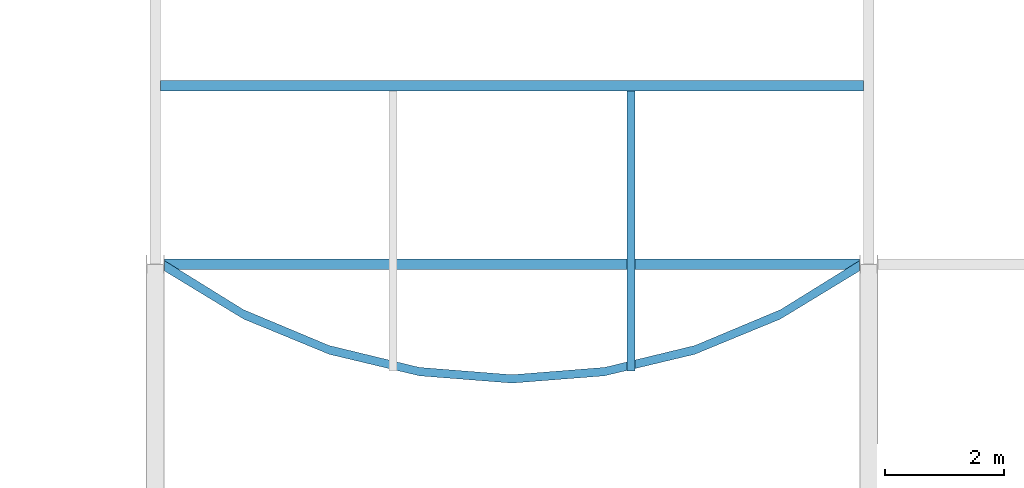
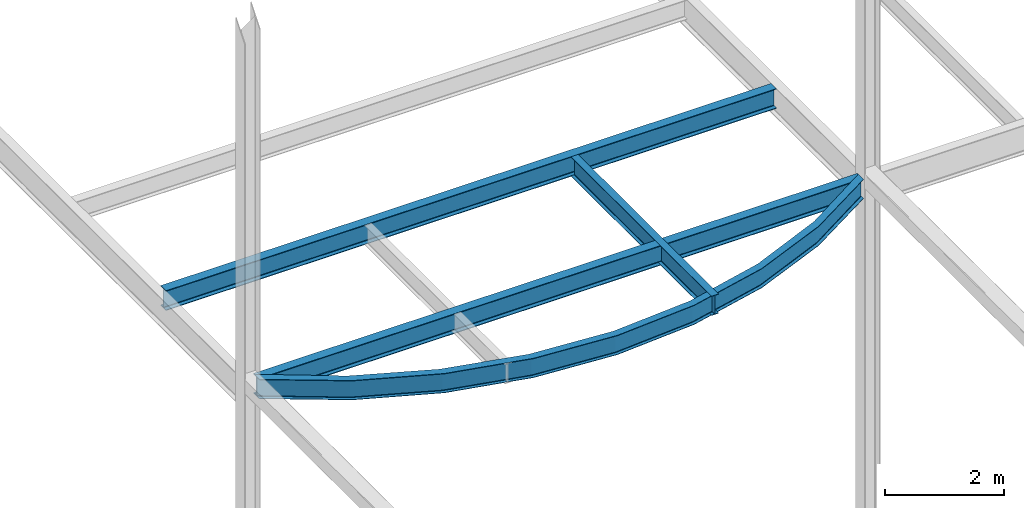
# One storey, part 9 of 21: 4 beams.
"""IFC2X3 building model written with IfcOpenShell, lengths in millimetres."""

from ifc_helpers import new_model, si_unit, origin, place, context, project, spatial, faceted_brep, material, element, save


model = new_model("IFC2X3")

# Units and contexts
context_of_model = context(None, 3, precision=1e-05, world=origin())
ifc_project = project(units=[si_unit("LENGTHUNIT", "METRE", prefix="MILLI")], contexts=[context_of_model])

# Building, storey
building = spatial("IfcBuilding", under=ifc_project, Name="Building", CompositionType="ELEMENT")
storey = spatial("IfcBuildingStorey", under=building, Name="FL6-FRM", CompositionType="ELEMENT")

# Beams
ifc_material_1 = material(Name="A992")
beam_1_placement = place(None, origin())
element("IfcBeam", 1, at=beam_1_placement, inside=storey, material=ifc_material_1, Name="B1184", context=context_of_model, shape_type="Brep", body=[
    faceted_brep([(89.5, 11911.0, 21966.0), (89.5, 12089.0, 21966.0), (11910.5, 12089.0, 21966.0), (11910.5, 11911.0, 21966.0), (89.5, 12089.0, 21978.8), (11910.5, 12089.0, 21978.8), (89.5, 12014.0, 21978.8), (11910.5, 12014.0, 21978.8), (89.5, 12011.4, 21979.1), (11910.5, 12011.4, 21979.1), (89.5, 12008.9, 21980.2), (11910.5, 12008.9, 21980.2), (89.5, 12006.8, 21981.8), (11910.5, 12006.8, 21981.8), (89.5, 12005.2, 21983.9), (11910.5, 12005.2, 21983.9), (89.5, 12004.2, 21986.4), (11910.5, 12004.2, 21986.4), (89.5, 12003.8, 21989.0), (11910.5, 12003.8, 21989.0), (89.5, 12003.8, 22350.0), (11910.5, 12003.8, 22350.0), (89.5, 12004.2, 22352.6), (11910.5, 12004.2, 22352.6), (89.5, 12005.2, 22355.1), (11910.5, 12005.2, 22355.1), (89.5, 12006.8, 22357.2), (11910.5, 12006.8, 22357.2), (89.5, 12008.9, 22358.8), (11910.5, 12008.9, 22358.8), (89.5, 12011.4, 22359.9), (11910.5, 12011.4, 22359.9), (89.5, 12014.0, 22360.2), (11910.5, 12014.0, 22360.2), (89.5, 12089.0, 22360.2), (11910.5, 12089.0, 22360.2), (89.5, 12089.0, 22373.0), (11910.5, 12089.0, 22373.0), (89.5, 11911.0, 22373.0), (11910.5, 11911.0, 22373.0), (89.5, 11911.0, 22360.2), (11910.5, 11911.0, 22360.2), (89.5, 11986.0, 22360.2), (11910.5, 11986.0, 22360.2), (89.5, 11988.6, 22359.9), (11910.5, 11988.6, 22359.9), (89.5, 11991.1, 22358.8), (11910.5, 11991.1, 22358.8), (89.5, 11993.2, 22357.2), (11910.5, 11993.2, 22357.2), (89.5, 11994.8, 22355.1), (11910.5, 11994.8, 22355.1), (89.5, 11995.8, 22352.6), (11910.5, 11995.8, 22352.6), (89.5, 11996.2, 22350.0), (11910.5, 11996.2, 22350.0), (89.5, 11996.2, 21989.0), (11910.5, 11996.2, 21989.0), (89.5, 11995.8, 21986.4), (11910.5, 11995.8, 21986.4), (89.5, 11994.8, 21983.9), (11910.5, 11994.8, 21983.9), (89.5, 11993.2, 21981.8), (11910.5, 11993.2, 21981.8), (89.5, 11991.1, 21980.2), (11910.5, 11991.1, 21980.2), (89.5, 11988.6, 21979.1), (11910.5, 11988.6, 21979.1), (89.5, 11986.0, 21978.8), (11910.5, 11986.0, 21978.8), (89.5, 11911.0, 21978.8), (11910.5, 11911.0, 21978.8)], [[[0, 1, 2, 3]], [[1, 4, 5, 2]], [[4, 6, 7, 5]], [[6, 8, 9, 7]], [[8, 10, 11, 9]], [[10, 12, 13, 11]], [[12, 14, 15, 13]], [[14, 16, 17, 15]], [[16, 18, 19, 17]], [[18, 20, 21, 19]], [[20, 22, 23, 21]], [[22, 24, 25, 23]], [[24, 26, 27, 25]], [[26, 28, 29, 27]], [[28, 30, 31, 29]], [[30, 32, 33, 31]], [[32, 34, 35, 33]], [[34, 36, 37, 35]], [[36, 38, 39, 37]], [[38, 40, 41, 39]], [[40, 42, 43, 41]], [[42, 44, 45, 43]], [[44, 46, 47, 45]], [[46, 48, 49, 47]], [[48, 50, 51, 49]], [[50, 52, 53, 51]], [[52, 54, 55, 53]], [[54, 56, 57, 55]], [[56, 58, 59, 57]], [[58, 60, 61, 59]], [[60, 62, 63, 61]], [[62, 64, 65, 63]], [[64, 66, 67, 65]], [[66, 68, 69, 67]], [[68, 70, 71, 69]], [[70, 0, 3, 71]], [[0, 70, 68, 66, 64, 62, 60, 58, 56, 54, 52, 50, 48, 46, 44, 42, 40, 38, 36, 34, 32, 30, 28, 26, 24, 22, 20, 18, 16, 14, 12, 10, 8, 6, 4, 1]], [[3, 2, 5, 7, 9, 11, 13, 15, 17, 19, 21, 23, 25, 27, 29, 31, 33, 35, 37, 39, 41, 43, 45, 47, 49, 51, 53, 55, 57, 59, 61, 63, 65, 67, 69, 71]]]),
])
ifc_material_2 = material(Name="A992")
beam_2_placement = place(None, origin())
element("IfcBeam", 2, at=beam_2_placement, inside=storey, material=ifc_material_2, Name="B1235", context=context_of_model, shape_type="Brep", body=[
    faceted_brep([(154.0, 8911.0, 21966.0), (154.0, 9089.0, 21966.0), (11846.0, 9089.0, 21966.0), (11846.0, 8911.0, 21966.0), (154.0, 9089.0, 21978.8), (11846.0, 9089.0, 21978.8), (154.0, 9014.05, 21978.8), (11846.0, 9014.05, 21978.8), (154.0, 9011.41, 21979.1), (11846.0, 9011.41, 21979.1), (154.0, 9008.95, 21980.2), (11846.0, 9008.95, 21980.2), (154.0, 9006.84, 21981.8), (11846.0, 9006.84, 21981.8), (154.0, 9005.22, 21983.9), (11846.0, 9005.22, 21983.9), (154.0, 9004.2, 21986.4), (11846.0, 9004.2, 21986.4), (154.0, 9003.85, 21989.0), (11846.0, 9003.85, 21989.0), (154.0, 9003.85, 22350.0), (11846.0, 9003.85, 22350.0), (154.0, 9004.2, 22352.6), (11846.0, 9004.2, 22352.6), (154.0, 9005.22, 22355.1), (11846.0, 9005.22, 22355.1), (154.0, 9006.84, 22357.2), (11846.0, 9006.84, 22357.2), (154.0, 9008.95, 22358.8), (11846.0, 9008.95, 22358.8), (154.0, 9011.41, 22359.9), (11846.0, 9011.41, 22359.9), (154.0, 9014.05, 22360.2), (11846.0, 9014.05, 22360.2), (154.0, 9089.0, 22360.2), (11846.0, 9089.0, 22360.2), (154.0, 9089.0, 22373.0), (11846.0, 9089.0, 22373.0), (154.0, 8911.0, 22373.0), (11846.0, 8911.0, 22373.0), (154.0, 8911.0, 22360.2), (11846.0, 8911.0, 22360.2), (154.0, 8985.95, 22360.2), (11846.0, 8985.95, 22360.2), (154.0, 8988.59, 22359.9), (11846.0, 8988.59, 22359.9), (154.0, 8991.05, 22358.8), (11846.0, 8991.05, 22358.8), (154.0, 8993.16, 22357.2), (11846.0, 8993.16, 22357.2), (154.0, 8994.78, 22355.1), (11846.0, 8994.78, 22355.1), (154.0, 8995.8, 22352.6), (11846.0, 8995.8, 22352.6), (154.0, 8996.15, 22350.0), (11846.0, 8996.15, 22350.0), (154.0, 8996.15, 21989.0), (11846.0, 8996.15, 21989.0), (154.0, 8995.8, 21986.4), (11846.0, 8995.8, 21986.4), (154.0, 8994.78, 21983.9), (11846.0, 8994.78, 21983.9), (154.0, 8993.16, 21981.8), (11846.0, 8993.16, 21981.8), (154.0, 8991.05, 21980.2), (11846.0, 8991.05, 21980.2), (154.0, 8988.59, 21979.1), (11846.0, 8988.59, 21979.1), (154.0, 8985.95, 21978.8), (11846.0, 8985.95, 21978.8), (154.0, 8911.0, 21978.8), (11846.0, 8911.0, 21978.8)], [[[0, 1, 2, 3]], [[1, 4, 5, 2]], [[4, 6, 7, 5]], [[6, 8, 9, 7]], [[8, 10, 11, 9]], [[10, 12, 13, 11]], [[12, 14, 15, 13]], [[14, 16, 17, 15]], [[16, 18, 19, 17]], [[18, 20, 21, 19]], [[20, 22, 23, 21]], [[22, 24, 25, 23]], [[24, 26, 27, 25]], [[26, 28, 29, 27]], [[28, 30, 31, 29]], [[30, 32, 33, 31]], [[32, 34, 35, 33]], [[34, 36, 37, 35]], [[36, 38, 39, 37]], [[38, 40, 41, 39]], [[40, 42, 43, 41]], [[42, 44, 45, 43]], [[44, 46, 47, 45]], [[46, 48, 49, 47]], [[48, 50, 51, 49]], [[50, 52, 53, 51]], [[52, 54, 55, 53]], [[54, 56, 57, 55]], [[56, 58, 59, 57]], [[58, 60, 61, 59]], [[60, 62, 63, 61]], [[62, 64, 65, 63]], [[64, 66, 67, 65]], [[66, 68, 69, 67]], [[68, 70, 71, 69]], [[70, 0, 3, 71]], [[0, 70, 68, 66, 64, 62, 60, 58, 56, 54, 52, 50, 48, 46, 44, 42, 40, 38, 36, 34, 32, 30, 28, 26, 24, 22, 20, 18, 16, 14, 12, 10, 8, 6, 4, 1]], [[3, 2, 5, 7, 9, 11, 13, 15, 17, 19, 21, 23, 25, 27, 29, 31, 33, 35, 37, 39, 41, 43, 45, 47, 49, 51, 53, 55, 57, 59, 61, 63, 65, 67, 69, 71]]]),
])
ifc_material_3 = material(Name="A992")
beam_3_placement = place(None, origin())
element("IfcBeam", 3, at=beam_3_placement, inside=storey, material=ifc_material_3, Name="B1246", context=context_of_model, shape_type="Brep", body=[
    faceted_brep([(154.0, 8886.78, 21974.0), (154.0, 9059.98, 21974.0), (1482.05, 8236.25, 21974.0), (1486.39, 8076.59, 21974.0), (2923.51, 7632.66, 21974.0), (2928.53, 7483.38, 21974.0), (4442.21, 7264.33, 21974.0), (4445.36, 7121.58, 21974.0), (6000.0, 7140.52, 21974.0), (6000.0, 7000.0, 21974.0), (7557.8, 7264.33, 21974.0), (7554.64, 7121.58, 21974.0), (9076.49, 7632.66, 21974.0), (9071.47, 7483.38, 21974.0), (10518.0, 8236.26, 21974.0), (10513.6, 8076.59, 21974.0), (11846.0, 9059.99, 21974.0), (11846.0, 8886.78, 21974.0), (154.0, 9059.98, 21982.8), (1482.05, 8236.25, 21982.8), (2923.51, 7632.66, 21982.8), (4442.21, 7264.33, 21982.8), (6000.0, 7140.52, 21982.8), (7557.8, 7264.33, 21982.8), (9076.49, 7632.66, 21982.8), (10518.0, 8236.26, 21982.8), (11846.0, 9059.99, 21982.8), (154.0, 8989.8, 21982.8), (1483.81, 8171.56, 21982.8), (2925.55, 7572.17, 21982.8), (4443.49, 7206.49, 21982.8), (6000.0, 7083.58, 21982.8), (7556.52, 7206.49, 21982.8), (9074.45, 7572.17, 21982.8), (10516.2, 8171.56, 21982.8), (11846.0, 8989.81, 21982.8), (154.0, 8987.85, 21982.9), (1483.86, 8169.75, 21982.9), (2925.6, 7570.48, 21982.9), (4443.52, 7204.88, 21982.9), (6000.0, 7082.0, 21982.9), (7556.48, 7204.88, 21982.9), (9074.4, 7570.49, 21982.9), (10516.1, 8169.76, 21982.9), (11846.0, 8987.85, 21982.9), (154.0, 8985.92, 21983.3), (1483.91, 8167.98, 21983.3), (2925.66, 7568.83, 21983.3), (4443.56, 7203.3, 21983.3), (6000.0, 7080.44, 21983.3), (7556.44, 7203.3, 21983.3), (9074.34, 7568.83, 21983.3), (10516.1, 8167.98, 21983.3), (11846.0, 8985.92, 21983.3), (154.0, 8984.1, 21983.9), (1483.95, 8166.31, 21983.9), (2925.71, 7567.26, 21983.9), (4443.59, 7201.8, 21983.9), (6000.0, 7078.97, 21983.9), (7556.41, 7201.8, 21983.9), (9074.29, 7567.26, 21983.9), (10516.0, 8166.31, 21983.9), (11846.0, 8984.11, 21983.9), (154.0, 8982.42, 21984.7), (1483.99, 8164.75, 21984.7), (2925.76, 7565.81, 21984.7), (4443.62, 7200.41, 21984.7), (6000.0, 7077.6, 21984.7), (7556.38, 7200.41, 21984.7), (9074.24, 7565.81, 21984.7), (10516.0, 8164.76, 21984.7), (11846.0, 8982.42, 21984.7), (154.0, 8980.89, 21985.8), (1484.03, 8163.34, 21985.8), (2925.81, 7564.49, 21985.8), (4443.65, 7199.15, 21985.8), (6000.0, 7076.36, 21985.8), (7556.35, 7199.15, 21985.8), (9074.19, 7564.49, 21985.8), (10516.0, 8163.34, 21985.8), (11846.0, 8980.89, 21985.8), (154.0, 8979.63, 21987.0), (1484.06, 8162.18, 21987.0), (2925.84, 7563.41, 21987.0), (4443.67, 7198.11, 21987.0), (6000.0, 7075.34, 21987.0), (7556.33, 7198.11, 21987.0), (9074.16, 7563.41, 21987.0), (10515.9, 8162.18, 21987.0), (11846.0, 8979.63, 21987.0), (154.0, 8978.57, 21988.3), (1484.09, 8161.21, 21988.3), (2925.87, 7562.5, 21988.3), (4443.69, 7197.24, 21988.3), (6000.0, 7074.48, 21988.3), (7556.31, 7197.24, 21988.3), (9074.13, 7562.5, 21988.3), (10515.9, 8161.21, 21988.3), (11846.0, 8978.57, 21988.3), (154.0, 8977.82, 21989.8), (1484.11, 8160.52, 21989.8), (2925.9, 7561.85, 21989.8), (4443.7, 7196.62, 21989.8), (6000.0, 7073.87, 21989.8), (7556.3, 7196.62, 21989.8), (9074.11, 7561.85, 21989.8), (10515.9, 8160.52, 21989.8), (11846.0, 8977.83, 21989.8), (154.0, 8977.37, 21991.4), (1484.12, 8160.1, 21991.4), (2925.91, 7561.46, 21991.4), (4443.71, 7196.25, 21991.4), (6000.0, 7073.5, 21991.4), (7556.29, 7196.25, 21991.4), (9074.09, 7561.46, 21991.4), (10515.9, 8160.1, 21991.4), (11846.0, 8977.37, 21991.4), (154.0, 8977.19, 21993.0), (1484.12, 8159.93, 21993.0), (2925.91, 7561.3, 21993.0), (4443.72, 7196.09, 21993.0), (6000.0, 7073.35, 21993.0), (7556.29, 7196.1, 21993.0), (9074.09, 7561.3, 21993.0), (10515.9, 8159.93, 21993.0), (11846.0, 8977.19, 21993.0), (154.0, 8977.18, 22354.0), (1484.12, 8159.92, 22354.0), (2925.91, 7561.29, 22354.0), (4443.72, 7196.09, 22354.0), (6000.0, 7073.34, 22354.0), (7556.29, 7196.09, 22354.0), (9074.09, 7561.29, 22354.0), (10515.9, 8159.92, 22354.0), (11846.0, 8977.18, 22354.0), (154.0, 8977.36, 22355.6), (1484.12, 8160.09, 22355.6), (2925.91, 7561.45, 22355.6), (4443.71, 7196.24, 22355.6), (6000.0, 7073.49, 22355.6), (7556.29, 7196.24, 22355.6), (9074.09, 7561.45, 22355.6), (10515.9, 8160.09, 22355.6), (11846.0, 8977.37, 22355.6), (154.0, 8977.82, 22357.2), (1484.11, 8160.52, 22357.2), (2925.9, 7561.85, 22357.2), (4443.7, 7196.62, 22357.2), (6000.0, 7073.87, 22357.2), (7556.3, 7196.62, 22357.2), (9074.11, 7561.85, 22357.2), (10515.9, 8160.52, 22357.2), (11846.0, 8977.82, 22357.2), (154.0, 8978.57, 22358.7), (1484.09, 8161.21, 22358.7), (2925.87, 7562.5, 22358.7), (4443.69, 7197.24, 22358.7), (6000.0, 7074.48, 22358.7), (7556.31, 7197.24, 22358.7), (9074.13, 7562.5, 22358.7), (10515.9, 8161.21, 22358.7), (11846.0, 8978.58, 22358.7), (154.0, 8979.63, 22360.0), (1484.06, 8162.18, 22360.0), (2925.84, 7563.41, 22360.0), (4443.67, 7198.11, 22360.0), (6000.0, 7075.34, 22360.0), (7556.33, 7198.11, 22360.0), (9074.16, 7563.41, 22360.0), (10515.9, 8162.18, 22360.0), (11846.0, 8979.63, 22360.0), (154.0, 8980.89, 22361.2), (1484.03, 8163.34, 22361.2), (2925.81, 7564.49, 22361.2), (4443.65, 7199.15, 22361.2), (6000.0, 7076.36, 22361.2), (7556.35, 7199.15, 22361.2), (9074.19, 7564.49, 22361.2), (10516.0, 8163.34, 22361.2), (11846.0, 8980.89, 22361.2), (154.0, 8982.42, 22362.3), (1483.99, 8164.75, 22362.3), (2925.76, 7565.81, 22362.3), (4443.62, 7200.41, 22362.3), (6000.0, 7077.6, 22362.3), (7556.38, 7200.41, 22362.3), (9074.24, 7565.81, 22362.3), (10516.0, 8164.76, 22362.3), (11846.0, 8982.42, 22362.3), (154.0, 8984.1, 22363.1), (1483.95, 8166.31, 22363.1), (2925.71, 7567.26, 22363.1), (4443.59, 7201.8, 22363.1), (6000.0, 7078.97, 22363.1), (7556.41, 7201.8, 22363.1), (9074.29, 7567.26, 22363.1), (10516.0, 8166.31, 22363.1), (11846.0, 8984.11, 22363.1), (154.0, 8985.92, 22363.7), (1483.91, 8167.98, 22363.7), (2925.66, 7568.83, 22363.7), (4443.56, 7203.3, 22363.7), (6000.0, 7080.44, 22363.7), (7556.44, 7203.3, 22363.7), (9074.34, 7568.83, 22363.7), (10516.1, 8167.98, 22363.7), (11846.0, 8985.92, 22363.7), (154.0, 8987.85, 22364.1), (1483.86, 8169.76, 22364.1), (2925.6, 7570.49, 22364.1), (4443.52, 7204.88, 22364.1), (6000.0, 7082.0, 22364.1), (7556.48, 7204.88, 22364.1), (9074.4, 7570.49, 22364.1), (10516.1, 8169.76, 22364.1), (11846.0, 8987.85, 22364.1), (154.0, 8989.81, 22364.2), (1483.81, 8171.57, 22364.2), (2925.55, 7572.18, 22364.2), (4443.49, 7206.5, 22364.2), (6000.0, 7083.59, 22364.2), (7556.52, 7206.5, 22364.2), (9074.45, 7572.18, 22364.2), (10516.2, 8171.57, 22364.2), (11846.0, 8989.81, 22364.2), (154.0, 9059.98, 22364.2), (1482.05, 8236.25, 22364.2), (2923.51, 7632.66, 22364.2), (4442.21, 7264.33, 22364.2), (6000.0, 7140.52, 22364.2), (7557.8, 7264.33, 22364.2), (9076.49, 7632.66, 22364.2), (10518.0, 8236.26, 22364.2), (11846.0, 9059.99, 22364.2), (154.0, 9059.98, 22373.0), (1482.05, 8236.25, 22373.0), (2923.51, 7632.66, 22373.0), (4442.21, 7264.33, 22373.0), (6000.0, 7140.52, 22373.0), (7557.8, 7264.33, 22373.0), (9076.49, 7632.66, 22373.0), (10518.0, 8236.26, 22373.0), (11846.0, 9059.99, 22373.0), (154.0, 8886.78, 22373.0), (1486.39, 8076.59, 22373.0), (2928.53, 7483.38, 22373.0), (4445.36, 7121.58, 22373.0), (6000.0, 7000.0, 22373.0), (7554.64, 7121.58, 22373.0), (9071.47, 7483.38, 22373.0), (10513.6, 8076.59, 22373.0), (11846.0, 8886.78, 22373.0), (154.0, 8886.78, 22364.2), (1486.39, 8076.59, 22364.2), (2928.53, 7483.38, 22364.2), (4445.36, 7121.58, 22364.2), (6000.0, 7000.0, 22364.2), (7554.64, 7121.58, 22364.2), (9071.47, 7483.38, 22364.2), (10513.6, 8076.59, 22364.2), (11846.0, 8886.78, 22364.2), (154.0, 8956.65, 22364.2), (1484.64, 8140.99, 22364.2), (2926.51, 7543.6, 22364.2), (4444.09, 7179.17, 22364.2), (6000.0, 7056.68, 22364.2), (7555.91, 7179.17, 22364.2), (9073.49, 7543.6, 22364.2), (10515.4, 8141.0, 22364.2), (11846.0, 8956.65, 22364.2), (154.0, 8958.61, 22364.1), (1484.59, 8142.8, 22364.1), (2926.45, 7545.29, 22364.1), (4444.05, 7180.78, 22364.1), (6000.0, 7058.28, 22364.1), (7555.95, 7180.78, 22364.1), (9073.55, 7545.29, 22364.1), (10515.4, 8142.81, 22364.1), (11846.0, 8958.62, 22364.1), (154.0, 8960.54, 22363.7), (1484.54, 8144.58, 22363.7), (2926.39, 7546.95, 22363.7), (4444.02, 7182.37, 22363.7), (6000.0, 7059.84, 22363.7), (7555.98, 7182.37, 22363.7), (9073.61, 7546.95, 22363.7), (10515.5, 8144.58, 22363.7), (11846.0, 8960.55, 22363.7), (154.0, 8962.36, 22363.1), (1484.49, 8146.26, 22363.1), (2926.34, 7548.52, 22363.1), (4443.98, 7183.87, 22363.1), (6000.0, 7061.31, 22363.1), (7556.02, 7183.87, 22363.1), (9073.66, 7548.52, 22363.1), (10515.5, 8146.26, 22363.1), (11846.0, 8962.36, 22363.1), (154.0, 8964.04, 22362.3), (1484.45, 8147.81, 22362.3), (2926.29, 7549.96, 22362.3), (4443.95, 7185.26, 22362.3), (6000.0, 7062.68, 22362.3), (7556.05, 7185.26, 22362.3), (9073.71, 7549.97, 22362.3), (10515.5, 8147.81, 22362.3), (11846.0, 8964.05, 22362.3), (154.0, 8965.58, 22361.2), (1484.41, 8149.22, 22361.2), (2926.25, 7551.29, 22361.2), (4443.93, 7186.52, 22361.2), (6000.0, 7063.92, 22361.2), (7556.07, 7186.52, 22361.2), (9073.75, 7551.29, 22361.2), (10515.6, 8149.22, 22361.2), (11846.0, 8965.58, 22361.2), (154.0, 8966.83, 22360.0), (1484.38, 8150.38, 22360.0), (2926.21, 7552.37, 22360.0), (4443.9, 7187.55, 22360.0), (6000.0, 7064.94, 22360.0), (7556.1, 7187.55, 22360.0), (9073.79, 7552.37, 22360.0), (10515.6, 8150.38, 22360.0), (11846.0, 8966.84, 22360.0), (154.0, 8967.89, 22358.7), (1484.36, 8151.35, 22358.7), (2926.18, 7553.28, 22358.7), (4443.88, 7188.42, 22358.7), (6000.0, 7065.8, 22358.7), (7556.12, 7188.42, 22358.7), (9073.82, 7553.28, 22358.7), (10515.6, 8151.35, 22358.7), (11846.0, 8967.89, 22358.7), (154.0, 8968.64, 22357.2), (1484.34, 8152.05, 22357.2), (2926.16, 7553.92, 22357.2), (4443.87, 7189.04, 22357.2), (6000.0, 7066.41, 22357.2), (7556.13, 7189.04, 22357.2), (9073.84, 7553.93, 22357.2), (10515.7, 8152.05, 22357.2), (11846.0, 8968.64, 22357.2), (154.0, 8969.09, 22355.6), (1484.33, 8152.46, 22355.6), (2926.15, 7554.32, 22355.6), (4443.86, 7189.42, 22355.6), (6000.0, 7066.78, 22355.6), (7556.14, 7189.42, 22355.6), (9073.85, 7554.32, 22355.6), (10515.7, 8152.47, 22355.6), (11846.0, 8969.09, 22355.6), (154.0, 8969.27, 22354.0), (1484.32, 8152.63, 22354.0), (2926.14, 7554.47, 22354.0), (4443.86, 7189.57, 22354.0), (6000.0, 7066.93, 22354.0), (7556.14, 7189.57, 22354.0), (9073.86, 7554.48, 22354.0), (10515.7, 8152.63, 22354.0), (11846.0, 8969.27, 22354.0), (154.0, 8969.26, 21993.0), (1484.32, 8152.62, 21993.0), (2926.14, 7554.47, 21993.0), (4443.86, 7189.56, 21993.0), (6000.0, 7066.92, 21993.0), (7556.14, 7189.56, 21993.0), (9073.86, 7554.47, 21993.0), (10515.7, 8152.62, 21993.0), (11846.0, 8969.26, 21993.0), (154.0, 8969.09, 21991.4), (1484.33, 8152.46, 21991.4), (2926.15, 7554.31, 21991.4), (4443.86, 7189.42, 21991.4), (6000.0, 7066.77, 21991.4), (7556.14, 7189.42, 21991.4), (9073.85, 7554.31, 21991.4), (10515.7, 8152.46, 21991.4), (11846.0, 8969.09, 21991.4), (154.0, 8968.64, 21989.8), (1484.34, 8152.04, 21989.8), (2926.16, 7553.92, 21989.8), (4443.87, 7189.04, 21989.8), (6000.0, 7066.41, 21989.8), (7556.13, 7189.04, 21989.8), (9073.84, 7553.92, 21989.8), (10515.7, 8152.05, 21989.8), (11846.0, 8968.64, 21989.8), (154.0, 8967.89, 21988.3), (1484.36, 8151.35, 21988.3), (2926.18, 7553.28, 21988.3), (4443.88, 7188.42, 21988.3), (6000.0, 7065.8, 21988.3), (7556.12, 7188.42, 21988.3), (9073.82, 7553.28, 21988.3), (10515.6, 8151.36, 21988.3), (11846.0, 8967.89, 21988.3), (154.0, 8966.83, 21987.0), (1484.38, 8150.38, 21987.0), (2926.21, 7552.37, 21987.0), (4443.9, 7187.55, 21987.0), (6000.0, 7064.94, 21987.0), (7556.1, 7187.56, 21987.0), (9073.79, 7552.37, 21987.0), (10515.6, 8150.38, 21987.0), (11846.0, 8966.84, 21987.0), (154.0, 8965.58, 21985.8), (1484.41, 8149.22, 21985.8), (2926.25, 7551.29, 21985.8), (4443.93, 7186.52, 21985.8), (6000.0, 7063.92, 21985.8), (7556.07, 7186.52, 21985.8), (9073.75, 7551.29, 21985.8), (10515.6, 8149.22, 21985.8), (11846.0, 8965.58, 21985.8), (154.0, 8964.04, 21984.7), (1484.45, 8147.81, 21984.7), (2926.29, 7549.96, 21984.7), (4443.95, 7185.26, 21984.7), (6000.0, 7062.68, 21984.7), (7556.05, 7185.26, 21984.7), (9073.71, 7549.97, 21984.7), (10515.5, 8147.81, 21984.7), (11846.0, 8964.05, 21984.7), (154.0, 8962.36, 21983.9), (1484.49, 8146.26, 21983.9), (2926.34, 7548.52, 21983.9), (4443.98, 7183.87, 21983.9), (6000.0, 7061.31, 21983.9), (7556.02, 7183.87, 21983.9), (9073.66, 7548.52, 21983.9), (10515.5, 8146.26, 21983.9), (11846.0, 8962.36, 21983.9), (154.0, 8960.55, 21983.3), (1484.54, 8144.59, 21983.3), (2926.39, 7546.95, 21983.3), (4444.02, 7182.37, 21983.3), (6000.0, 7059.84, 21983.3), (7555.98, 7182.37, 21983.3), (9073.61, 7546.95, 21983.3), (10515.5, 8144.59, 21983.3), (11846.0, 8960.55, 21983.3), (154.0, 8958.62, 21982.9), (1484.59, 8142.81, 21982.9), (2926.45, 7545.29, 21982.9), (4444.05, 7180.79, 21982.9), (6000.0, 7058.28, 21982.9), (7555.95, 7180.79, 21982.9), (9073.55, 7545.29, 21982.9), (10515.4, 8142.81, 21982.9), (11846.0, 8958.62, 21982.9), (154.0, 8956.66, 21982.8), (1484.64, 8141.0, 21982.8), (2926.51, 7543.6, 21982.8), (4444.09, 7179.18, 21982.8), (6000.0, 7056.69, 21982.8), (7555.91, 7179.18, 21982.8), (9073.49, 7543.61, 21982.8), (10515.4, 8141.01, 21982.8), (11846.0, 8956.66, 21982.8), (154.0, 8886.78, 21982.8), (1486.39, 8076.59, 21982.8), (2928.53, 7483.38, 21982.8), (4445.36, 7121.58, 21982.8), (6000.0, 7000.0, 21982.8), (7554.64, 7121.58, 21982.8), (9071.47, 7483.38, 21982.8), (10513.6, 8076.59, 21982.8), (11846.0, 8886.78, 21982.8)], [[[0, 1, 2, 3]], [[3, 2, 4, 5]], [[5, 4, 6, 7]], [[7, 6, 8, 9]], [[9, 8, 10, 11]], [[11, 10, 12, 13]], [[13, 12, 14, 15]], [[15, 14, 16, 17]], [[1, 18, 19, 2]], [[2, 19, 20, 4]], [[4, 20, 21, 6]], [[6, 21, 22, 8]], [[8, 22, 23, 10]], [[10, 23, 24, 12]], [[12, 24, 25, 14]], [[14, 25, 26, 16]], [[18, 27, 28, 19]], [[19, 28, 29, 20]], [[20, 29, 30, 21]], [[21, 30, 31, 22]], [[22, 31, 32, 23]], [[23, 32, 33, 24]], [[24, 33, 34, 25]], [[25, 34, 35, 26]], [[27, 36, 37, 28]], [[28, 37, 38, 29]], [[29, 38, 39, 30]], [[30, 39, 40, 31]], [[31, 40, 41, 32]], [[32, 41, 42, 33]], [[33, 42, 43, 34]], [[34, 43, 44, 35]], [[36, 45, 46, 37]], [[37, 46, 47, 38]], [[38, 47, 48, 39]], [[39, 48, 49, 40]], [[40, 49, 50, 41]], [[41, 50, 51, 42]], [[42, 51, 52, 43]], [[43, 52, 53, 44]], [[45, 54, 55, 46]], [[46, 55, 56, 47]], [[47, 56, 57, 48]], [[48, 57, 58, 49]], [[49, 58, 59, 50]], [[50, 59, 60, 51]], [[51, 60, 61, 52]], [[52, 61, 62, 53]], [[54, 63, 64, 55]], [[55, 64, 65, 56]], [[56, 65, 66, 57]], [[57, 66, 67, 58]], [[58, 67, 68, 59]], [[59, 68, 69, 60]], [[60, 69, 70, 61]], [[61, 70, 71, 62]], [[63, 72, 73, 64]], [[64, 73, 74, 65]], [[65, 74, 75, 66]], [[66, 75, 76, 67]], [[67, 76, 77, 68]], [[68, 77, 78, 69]], [[69, 78, 79, 70]], [[70, 79, 80, 71]], [[72, 81, 82, 73]], [[73, 82, 83, 74]], [[74, 83, 84, 75]], [[75, 84, 85, 76]], [[76, 85, 86, 77]], [[77, 86, 87, 78]], [[78, 87, 88, 79]], [[79, 88, 89, 80]], [[81, 90, 91, 82]], [[82, 91, 92, 83]], [[83, 92, 93, 84]], [[84, 93, 94, 85]], [[85, 94, 95, 86]], [[86, 95, 96, 87]], [[87, 96, 97, 88]], [[88, 97, 98, 89]], [[90, 99, 100, 91]], [[91, 100, 101, 92]], [[92, 101, 102, 93]], [[93, 102, 103, 94]], [[94, 103, 104, 95]], [[95, 104, 105, 96]], [[96, 105, 106, 97]], [[97, 106, 107, 98]], [[99, 108, 109, 100]], [[100, 109, 110, 101]], [[101, 110, 111, 102]], [[102, 111, 112, 103]], [[103, 112, 113, 104]], [[104, 113, 114, 105]], [[105, 114, 115, 106]], [[106, 115, 116, 107]], [[108, 117, 118, 109]], [[109, 118, 119, 110]], [[110, 119, 120, 111]], [[111, 120, 121, 112]], [[112, 121, 122, 113]], [[113, 122, 123, 114]], [[114, 123, 124, 115]], [[115, 124, 125, 116]], [[117, 126, 127, 118]], [[118, 127, 128, 119]], [[119, 128, 129, 120]], [[120, 129, 130, 121]], [[121, 130, 131, 122]], [[122, 131, 132, 123]], [[123, 132, 133, 124]], [[124, 133, 134, 125]], [[126, 135, 136, 127]], [[127, 136, 137, 128]], [[128, 137, 138, 129]], [[129, 138, 139, 130]], [[130, 139, 140, 131]], [[131, 140, 141, 132]], [[132, 141, 142, 133]], [[133, 142, 143, 134]], [[135, 144, 145, 136]], [[136, 145, 146, 137]], [[137, 146, 147, 138]], [[138, 147, 148, 139]], [[139, 148, 149, 140]], [[140, 149, 150, 141]], [[141, 150, 151, 142]], [[142, 151, 152, 143]], [[144, 153, 154, 145]], [[145, 154, 155, 146]], [[146, 155, 156, 147]], [[147, 156, 157, 148]], [[148, 157, 158, 149]], [[149, 158, 159, 150]], [[150, 159, 160, 151]], [[151, 160, 161, 152]], [[153, 162, 163, 154]], [[154, 163, 164, 155]], [[155, 164, 165, 156]], [[156, 165, 166, 157]], [[157, 166, 167, 158]], [[158, 167, 168, 159]], [[159, 168, 169, 160]], [[160, 169, 170, 161]], [[162, 171, 172, 163]], [[163, 172, 173, 164]], [[164, 173, 174, 165]], [[165, 174, 175, 166]], [[166, 175, 176, 167]], [[167, 176, 177, 168]], [[168, 177, 178, 169]], [[169, 178, 179, 170]], [[171, 180, 181, 172]], [[172, 181, 182, 173]], [[173, 182, 183, 174]], [[174, 183, 184, 175]], [[175, 184, 185, 176]], [[176, 185, 186, 177]], [[177, 186, 187, 178]], [[178, 187, 188, 179]], [[180, 189, 190, 181]], [[181, 190, 191, 182]], [[182, 191, 192, 183]], [[183, 192, 193, 184]], [[184, 193, 194, 185]], [[185, 194, 195, 186]], [[186, 195, 196, 187]], [[187, 196, 197, 188]], [[189, 198, 199, 190]], [[190, 199, 200, 191]], [[191, 200, 201, 192]], [[192, 201, 202, 193]], [[193, 202, 203, 194]], [[194, 203, 204, 195]], [[195, 204, 205, 196]], [[196, 205, 206, 197]], [[198, 207, 208, 199]], [[199, 208, 209, 200]], [[200, 209, 210, 201]], [[201, 210, 211, 202]], [[202, 211, 212, 203]], [[203, 212, 213, 204]], [[204, 213, 214, 205]], [[205, 214, 215, 206]], [[207, 216, 217, 208]], [[208, 217, 218, 209]], [[209, 218, 219, 210]], [[210, 219, 220, 211]], [[211, 220, 221, 212]], [[212, 221, 222, 213]], [[213, 222, 223, 214]], [[214, 223, 224, 215]], [[216, 225, 226, 217]], [[217, 226, 227, 218]], [[218, 227, 228, 219]], [[219, 228, 229, 220]], [[220, 229, 230, 221]], [[221, 230, 231, 222]], [[222, 231, 232, 223]], [[223, 232, 233, 224]], [[225, 234, 235, 226]], [[226, 235, 236, 227]], [[227, 236, 237, 228]], [[228, 237, 238, 229]], [[229, 238, 239, 230]], [[230, 239, 240, 231]], [[231, 240, 241, 232]], [[232, 241, 242, 233]], [[234, 243, 244, 235]], [[235, 244, 245, 236]], [[236, 245, 246, 237]], [[237, 246, 247, 238]], [[238, 247, 248, 239]], [[239, 248, 249, 240]], [[240, 249, 250, 241]], [[241, 250, 251, 242]], [[243, 252, 253, 244]], [[244, 253, 254, 245]], [[245, 254, 255, 246]], [[246, 255, 256, 247]], [[247, 256, 257, 248]], [[248, 257, 258, 249]], [[249, 258, 259, 250]], [[250, 259, 260, 251]], [[252, 261, 262, 253]], [[253, 262, 263, 254]], [[254, 263, 264, 255]], [[255, 264, 265, 256]], [[256, 265, 266, 257]], [[257, 266, 267, 258]], [[258, 267, 268, 259]], [[259, 268, 269, 260]], [[261, 270, 271, 262]], [[262, 271, 272, 263]], [[263, 272, 273, 264]], [[264, 273, 274, 265]], [[265, 274, 275, 266]], [[266, 275, 276, 267]], [[267, 276, 277, 268]], [[268, 277, 278, 269]], [[270, 279, 280, 271]], [[271, 280, 281, 272]], [[272, 281, 282, 273]], [[273, 282, 283, 274]], [[274, 283, 284, 275]], [[275, 284, 285, 276]], [[276, 285, 286, 277]], [[277, 286, 287, 278]], [[279, 288, 289, 280]], [[280, 289, 290, 281]], [[281, 290, 291, 282]], [[282, 291, 292, 283]], [[283, 292, 293, 284]], [[284, 293, 294, 285]], [[285, 294, 295, 286]], [[286, 295, 296, 287]], [[288, 297, 298, 289]], [[289, 298, 299, 290]], [[290, 299, 300, 291]], [[291, 300, 301, 292]], [[292, 301, 302, 293]], [[293, 302, 303, 294]], [[294, 303, 304, 295]], [[295, 304, 305, 296]], [[297, 306, 307, 298]], [[298, 307, 308, 299]], [[299, 308, 309, 300]], [[300, 309, 310, 301]], [[301, 310, 311, 302]], [[302, 311, 312, 303]], [[303, 312, 313, 304]], [[304, 313, 314, 305]], [[306, 315, 316, 307]], [[307, 316, 317, 308]], [[308, 317, 318, 309]], [[309, 318, 319, 310]], [[310, 319, 320, 311]], [[311, 320, 321, 312]], [[312, 321, 322, 313]], [[313, 322, 323, 314]], [[315, 324, 325, 316]], [[316, 325, 326, 317]], [[317, 326, 327, 318]], [[318, 327, 328, 319]], [[319, 328, 329, 320]], [[320, 329, 330, 321]], [[321, 330, 331, 322]], [[322, 331, 332, 323]], [[324, 333, 334, 325]], [[325, 334, 335, 326]], [[326, 335, 336, 327]], [[327, 336, 337, 328]], [[328, 337, 338, 329]], [[329, 338, 339, 330]], [[330, 339, 340, 331]], [[331, 340, 341, 332]], [[333, 342, 343, 334]], [[334, 343, 344, 335]], [[335, 344, 345, 336]], [[336, 345, 346, 337]], [[337, 346, 347, 338]], [[338, 347, 348, 339]], [[339, 348, 349, 340]], [[340, 349, 350, 341]], [[342, 351, 352, 343]], [[343, 352, 353, 344]], [[344, 353, 354, 345]], [[345, 354, 355, 346]], [[346, 355, 356, 347]], [[347, 356, 357, 348]], [[348, 357, 358, 349]], [[349, 358, 359, 350]], [[351, 360, 361, 352]], [[352, 361, 362, 353]], [[353, 362, 363, 354]], [[354, 363, 364, 355]], [[355, 364, 365, 356]], [[356, 365, 366, 357]], [[357, 366, 367, 358]], [[358, 367, 368, 359]], [[360, 369, 370, 361]], [[361, 370, 371, 362]], [[362, 371, 372, 363]], [[363, 372, 373, 364]], [[364, 373, 374, 365]], [[365, 374, 375, 366]], [[366, 375, 376, 367]], [[367, 376, 377, 368]], [[369, 378, 379, 370]], [[370, 379, 380, 371]], [[371, 380, 381, 372]], [[372, 381, 382, 373]], [[373, 382, 383, 374]], [[374, 383, 384, 375]], [[375, 384, 385, 376]], [[376, 385, 386, 377]], [[378, 387, 388, 379]], [[379, 388, 389, 380]], [[380, 389, 390, 381]], [[381, 390, 391, 382]], [[382, 391, 392, 383]], [[383, 392, 393, 384]], [[384, 393, 394, 385]], [[385, 394, 395, 386]], [[387, 396, 397, 388]], [[388, 397, 398, 389]], [[389, 398, 399, 390]], [[390, 399, 400, 391]], [[391, 400, 401, 392]], [[392, 401, 402, 393]], [[393, 402, 403, 394]], [[394, 403, 404, 395]], [[396, 405, 406, 397]], [[397, 406, 407, 398]], [[398, 407, 408, 399]], [[399, 408, 409, 400]], [[400, 409, 410, 401]], [[401, 410, 411, 402]], [[402, 411, 412, 403]], [[403, 412, 413, 404]], [[405, 414, 415, 406]], [[406, 415, 416, 407]], [[407, 416, 417, 408]], [[408, 417, 418, 409]], [[409, 418, 419, 410]], [[410, 419, 420, 411]], [[411, 420, 421, 412]], [[412, 421, 422, 413]], [[414, 423, 424, 415]], [[415, 424, 425, 416]], [[416, 425, 426, 417]], [[417, 426, 427, 418]], [[418, 427, 428, 419]], [[419, 428, 429, 420]], [[420, 429, 430, 421]], [[421, 430, 431, 422]], [[423, 432, 433, 424]], [[424, 433, 434, 425]], [[425, 434, 435, 426]], [[426, 435, 436, 427]], [[427, 436, 437, 428]], [[428, 437, 438, 429]], [[429, 438, 439, 430]], [[430, 439, 440, 431]], [[432, 441, 442, 433]], [[433, 442, 443, 434]], [[434, 443, 444, 435]], [[435, 444, 445, 436]], [[436, 445, 446, 437]], [[437, 446, 447, 438]], [[438, 447, 448, 439]], [[439, 448, 449, 440]], [[441, 450, 451, 442]], [[442, 451, 452, 443]], [[443, 452, 453, 444]], [[444, 453, 454, 445]], [[445, 454, 455, 446]], [[446, 455, 456, 447]], [[447, 456, 457, 448]], [[448, 457, 458, 449]], [[450, 459, 460, 451]], [[451, 460, 461, 452]], [[452, 461, 462, 453]], [[453, 462, 463, 454]], [[454, 463, 464, 455]], [[455, 464, 465, 456]], [[456, 465, 466, 457]], [[457, 466, 467, 458]], [[459, 0, 3, 460]], [[460, 3, 5, 461]], [[461, 5, 7, 462]], [[462, 7, 9, 463]], [[463, 9, 11, 464]], [[464, 11, 13, 465]], [[465, 13, 15, 466]], [[466, 15, 17, 467]], [[0, 459, 450, 441, 432, 423, 414, 405, 396, 387, 378, 369, 360, 351, 342, 333, 324, 315, 306, 297, 288, 279, 270, 261, 252, 243, 234, 225, 216, 207, 198, 189, 180, 171, 162, 153, 144, 135, 126, 117, 108, 99, 90, 81, 72, 63, 54, 45, 36, 27, 18, 1]], [[17, 16, 26, 35, 44, 53, 62, 71, 80, 89, 98, 107, 116, 125, 134, 143, 152, 161, 170, 179, 188, 197, 206, 215, 224, 233, 242, 251, 260, 269, 278, 287, 296, 305, 314, 323, 332, 341, 350, 359, 368, 377, 386, 395, 404, 413, 422, 431, 440, 449, 458, 467]]]),
])
ifc_material_4 = material(Name="A992")
beam_4_placement = place(None, origin())
element("IfcBeam", 4, at=beam_4_placement, inside=storey, material=ifc_material_4, Name="B1248", context=context_of_model, shape_type="Brep", body=[
    faceted_brep([(7930.0, 11911.0, 21974.0), (8070.0, 11911.0, 21974.0), (8070.0, 7202.04, 21974.0), (7930.0, 7202.04, 21974.0), (8070.0, 11911.0, 21982.8), (8070.0, 7202.04, 21982.8), (8013.4, 11911.0, 21982.8), (8013.4, 7202.04, 21982.8), (8010.76, 11911.0, 21983.1), (8010.76, 7202.04, 21983.1), (8008.3, 11911.0, 21984.2), (8008.3, 7202.04, 21984.2), (8006.19, 11911.0, 21985.8), (8006.19, 7202.04, 21985.8), (8004.57, 11911.0, 21987.9), (8004.57, 7202.04, 21987.9), (8003.55, 11911.0, 21990.4), (8003.55, 7202.04, 21990.4), (8003.2, 11911.0, 21993.0), (8003.2, 7202.04, 21993.0), (8003.2, 11911.0, 22354.0), (8003.2, 7202.04, 22354.0), (8003.55, 11911.0, 22356.6), (8003.55, 7202.04, 22356.6), (8004.57, 11911.0, 22359.1), (8004.57, 7202.04, 22359.1), (8006.19, 11911.0, 22361.2), (8006.19, 7202.04, 22361.2), (8008.3, 11911.0, 22362.8), (8008.3, 7202.04, 22362.8), (8010.76, 11911.0, 22363.9), (8010.76, 7202.04, 22363.9), (8013.4, 11911.0, 22364.2), (8013.4, 7202.04, 22364.2), (8070.0, 11911.0, 22364.2), (8070.0, 7202.04, 22364.2), (8070.0, 11911.0, 22373.0), (8070.0, 7202.04, 22373.0), (7930.0, 11911.0, 22373.0), (7930.0, 7202.04, 22373.0), (7930.0, 11911.0, 22364.2), (7930.0, 7202.04, 22364.2), (7986.6, 11911.0, 22364.2), (7986.6, 7202.04, 22364.2), (7989.24, 11911.0, 22363.9), (7989.24, 7202.04, 22363.9), (7991.7, 11911.0, 22362.8), (7991.7, 7202.04, 22362.8), (7993.81, 11911.0, 22361.2), (7993.81, 7202.04, 22361.2), (7995.43, 11911.0, 22359.1), (7995.43, 7202.04, 22359.1), (7996.45, 11911.0, 22356.6), (7996.45, 7202.04, 22356.6), (7996.8, 11911.0, 22354.0), (7996.8, 7202.04, 22354.0), (7996.8, 11911.0, 21993.0), (7996.8, 7202.04, 21993.0), (7996.45, 11911.0, 21990.4), (7996.45, 7202.04, 21990.4), (7995.43, 11911.0, 21987.9), (7995.43, 7202.04, 21987.9), (7993.81, 11911.0, 21985.8), (7993.81, 7202.04, 21985.8), (7991.7, 11911.0, 21984.2), (7991.7, 7202.04, 21984.2), (7989.24, 11911.0, 21983.1), (7989.24, 7202.04, 21983.1), (7986.6, 11911.0, 21982.8), (7986.6, 7202.04, 21982.8), (7930.0, 11911.0, 21982.8), (7930.0, 7202.04, 21982.8)], [[[0, 1, 2, 3]], [[1, 4, 5, 2]], [[4, 6, 7, 5]], [[6, 8, 9, 7]], [[8, 10, 11, 9]], [[10, 12, 13, 11]], [[12, 14, 15, 13]], [[14, 16, 17, 15]], [[16, 18, 19, 17]], [[18, 20, 21, 19]], [[20, 22, 23, 21]], [[22, 24, 25, 23]], [[24, 26, 27, 25]], [[26, 28, 29, 27]], [[28, 30, 31, 29]], [[30, 32, 33, 31]], [[32, 34, 35, 33]], [[34, 36, 37, 35]], [[36, 38, 39, 37]], [[38, 40, 41, 39]], [[40, 42, 43, 41]], [[42, 44, 45, 43]], [[44, 46, 47, 45]], [[46, 48, 49, 47]], [[48, 50, 51, 49]], [[50, 52, 53, 51]], [[52, 54, 55, 53]], [[54, 56, 57, 55]], [[56, 58, 59, 57]], [[58, 60, 61, 59]], [[60, 62, 63, 61]], [[62, 64, 65, 63]], [[64, 66, 67, 65]], [[66, 68, 69, 67]], [[68, 70, 71, 69]], [[70, 0, 3, 71]], [[0, 70, 68, 66, 64, 62, 60, 58, 56, 54, 52, 50, 48, 46, 44, 42, 40, 38, 36, 34, 32, 30, 28, 26, 24, 22, 20, 18, 16, 14, 12, 10, 8, 6, 4, 1]], [[3, 2, 5, 7, 9, 11, 13, 15, 17, 19, 21, 23, 25, 27, 29, 31, 33, 35, 37, 39, 41, 43, 45, 47, 49, 51, 53, 55, 57, 59, 61, 63, 65, 67, 69, 71]]]),
])

save(model, "model.ifc")
